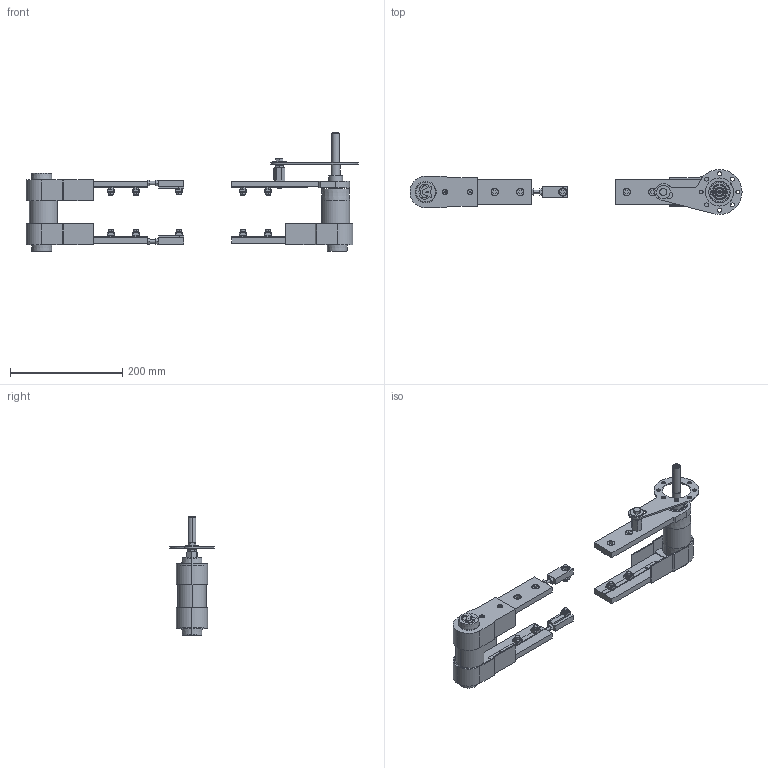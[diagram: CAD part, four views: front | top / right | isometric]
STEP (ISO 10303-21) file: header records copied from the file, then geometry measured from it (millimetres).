
FILE_DESCRIPTION (( 'STEP AP214' ), '1' );
FILE_NAME ('084.815.037.STEP', '2020-01-24T15:25:50', ( 'Localadmin' ), ( 'Microsoft' ), 'SwSTEP 2.0', 'SolidWorks 2018', '' );
FILE_SCHEMA (( 'AUTOMOTIVE_DESIGN' ));
Length unit declared in the file: millimetre
Products named in the file (18): 084.815.108; VITI TSEI UNI 5933_M4x12 UNI 5933; 084.815.109; 084.301.000 VITI ALUSIC_084.301.003; 084.302.000 DADI ALUSIC 13x13-1_084.302.004; 084.815.037; 084.807.003_084.807.003; 084.802.017_084.802.017; 084.807.002_084.807.002; 084.000.A02_SENZA DADO; VITI TE UNI 5739_M8x20 UNI 5739; RONDELLE FASCIA LARGA UNI 6593_8.4x24 UNI 6593; DADI ESAGONALI RIBASSATI UNI 5589_M8 UNI 5589; GRANI A PUNTA PIATTA UNI 5923_M8x25 UNI 5923; 084.802.027; 084.807.005; 084.802.008; 084.802.023_084.802.023
Assembly tree (48 placements, depth 3):
  084.815.037
    084.815.109
    084.815.108
    084.802.023_084.802.023  x3
    084.802.008  x2
    084.000.A02_SENZA DADO
      084.807.005
      084.802.027
      GRANI A PUNTA PIATTA UNI 5923_M8x25 UNI 5923
      DADI ESAGONALI RIBASSATI UNI 5589_M8 UNI 5589
      RONDELLE FASCIA LARGA UNI 6593_8.4x24 UNI 6593
      VITI TE UNI 5739_M8x20 UNI 5739
    084.807.002_084.807.002  x3
    084.802.017_084.802.017  x4
    084.807.003_084.807.003
    084.302.000 DADI ALUSIC 13x13-1_084.302.004  x10
    084.301.000 VITI ALUSIC_084.301.003  x10
    VITI TSEI UNI 5933_M4x12 UNI 5933  x6
Bounding box: 591 x 80 x 211 mm (x, y, z)
Volume: 930836.9 mm3; surface area: 332698.5 mm2
Topology: 55 solids, 59 shells, 1370 faces, 3359 edges, 2153 vertices
Faces by surface type: plane 606, cylinder 394, cone 164, torus 126, bspline 64, sphere 16
Entity records: 16616 total; most frequent: CARTESIAN_POINT 3554, DIRECTION 2619, ORIENTED_EDGE 2402, EDGE_CURVE 1201, AXIS2_PLACEMENT_3D 1009, VERTEX_POINT 770, VECTOR 601, LINE 601
